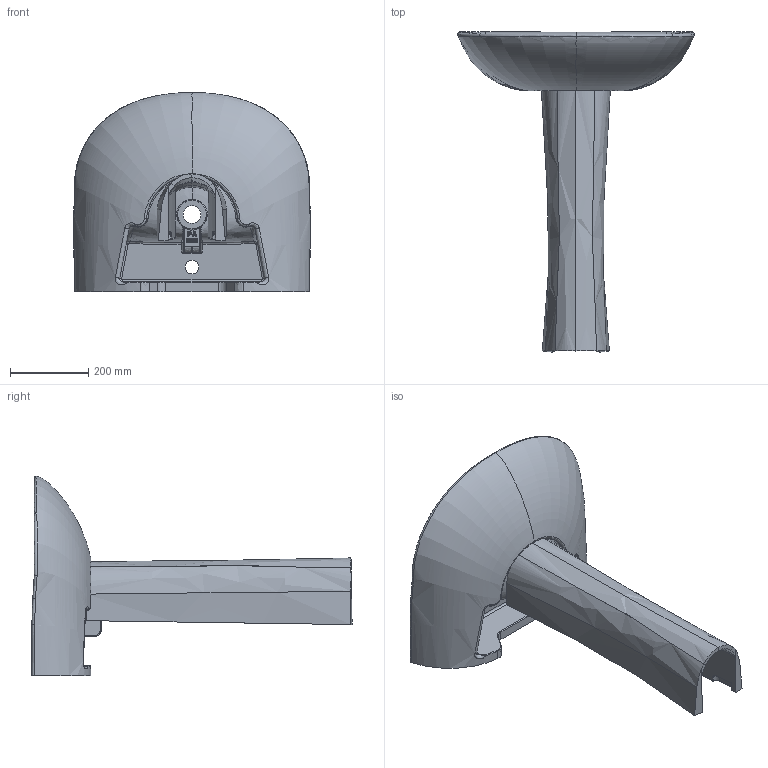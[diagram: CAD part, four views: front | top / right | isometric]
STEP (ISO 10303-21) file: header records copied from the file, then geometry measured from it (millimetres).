
FILE_DESCRIPTION (( 'STEP AP203' ), '1' );
FILE_NAME ('PA060.pa250SLDPRT.STEP', '2022-04-21T11:59:18', ( '' ), ( '' ), 'SwSTEP 2.0', 'SolidWorks 2021', '' );
FILE_SCHEMA (( 'CONFIG_CONTROL_DESIGN' ));
Products named in the file (1): PA060.pa250SLDPRT
Bounding box: 603.66 x 817 x 508.51 mm (x, y, z)
Volume: 17027855.7 mm3; surface area: 1509565 mm2
Topology: 3 solids, 5 shells, 657 faces, 1596 edges, 932 vertices
Faces by surface type: bspline 401, cylinder 114, plane 73, torus 63, sphere 4, cone 2
Entity records: 85939 total; most frequent: CARTESIAN_POINT 73735, ORIENTED_EDGE 3154, DIRECTION 1582, EDGE_CURVE 1577, VERTEX_POINT 933, B_SPLINE_CURVE_WITH_KNOTS 872, EDGE_LOOP 670, FACE_OUTER_BOUND 657
